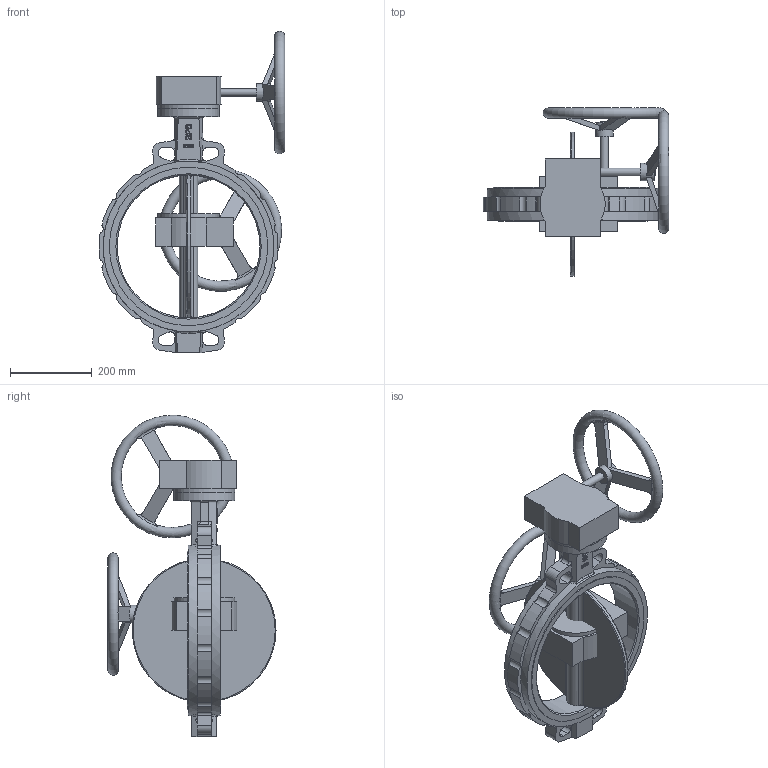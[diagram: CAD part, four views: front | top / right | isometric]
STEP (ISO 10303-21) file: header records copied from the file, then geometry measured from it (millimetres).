
FILE_DESCRIPTION( ( 'Unknown' ), '1' );
FILE_NAME( 'R:/ECCUA/ROOTSI BPS 3D vidinad/Poordklapid Wafer type/Butterfly valve(wafer) with gearbox BPS/STEP formaat/BPS 2303350 butterfly valve DN350.stp', 'Unknown', ( 'Unknown' ), ( 'Unknown' ), 'PSStep 10.1', 'Unknown', ' ' );
FILE_SCHEMA( ( 'AUTOMOTIVE_DESIGN { 1 0 10303 214 1 1 1 1 }' ) );
Length unit declared in the file: millimetre
Products named in the file (3): Assem1; Butterfly valve wafer type DN350 BPS; Gearbox DN250-350 BPS
Bounding box: 454.2 x 411.49 x 786.67 mm (x, y, z)
Volume: 18020022.2 mm3; surface area: 1673631.3 mm2
Topology: 4 solids, 4 shells, 574 faces, 1600 edges, 1058 vertices
Faces by surface type: plane 212, cylinder 176, extrusion 98, bspline 66, torus 18, cone 4
Full cylindrical faces by diameter (mm): 14 x8, 19 x4, 43 x2, 150 x4, 350 x2, 388 x4, 418 x4
Entity records: 17344 total; most frequent: CARTESIAN_POINT 8023, ORIENTED_EDGE 1538, DIRECTION 1267, EDGE_CURVE 769, VERTEX_POINT 519, AXIS2_PLACEMENT_3D 434, VECTOR 399, LINE 350
